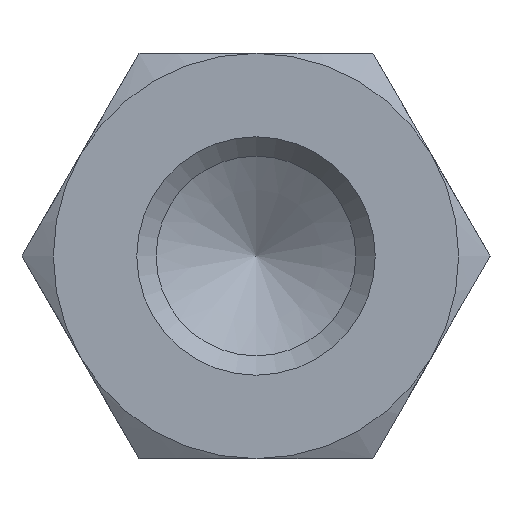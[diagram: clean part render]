
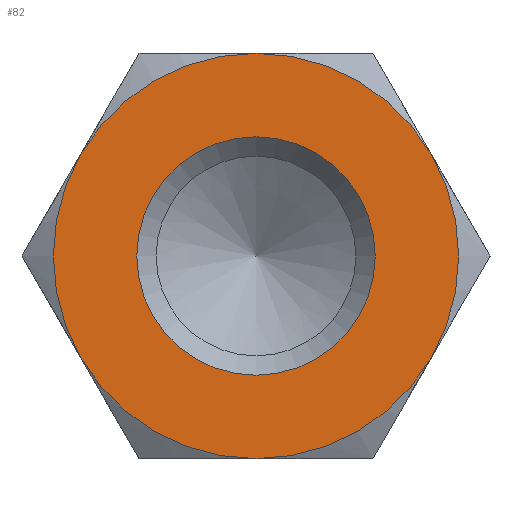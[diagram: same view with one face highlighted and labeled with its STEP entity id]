
A CAD part, left-side view. The second image highlights one B-rep face of the part: STEP entity #82.
In plain terms, the highlighted planar face has unit normal (-1, 0, 0).
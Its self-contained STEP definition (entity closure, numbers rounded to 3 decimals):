
#82 = ADVANCED_FACE( '', ( #119, #120 ), #121, .F. );
#119 = FACE_OUTER_BOUND( '', #179, .T. );
#120 = FACE_BOUND( '', #180, .T. );
#121 = PLANE( '', #181 );
#179 = EDGE_LOOP( '', ( #264, #265, #266, #267, #268, #269 ) );
#180 = EDGE_LOOP( '', ( #270 ) );
#181 = AXIS2_PLACEMENT_3D( '', #271, #272, #273 );
#264 = ORIENTED_EDGE( '', *, *, #416, .F. );
#265 = ORIENTED_EDGE( '', *, *, #417, .F. );
#266 = ORIENTED_EDGE( '', *, *, #418, .F. );
#267 = ORIENTED_EDGE( '', *, *, #409, .F. );
#268 = ORIENTED_EDGE( '', *, *, #405, .F. );
#269 = ORIENTED_EDGE( '', *, *, #406, .F. );
#270 = ORIENTED_EDGE( '', *, *, #419, .T. );
#271 = CARTESIAN_POINT( '', ( 0., 0., 0. ) );
#272 = DIRECTION( '', ( 1., 0., 0. ) );
#273 = DIRECTION( '', ( 0., 0., -1. ) );
#405 = EDGE_CURVE( '', #457, #454, #459, .T. );
#406 = EDGE_CURVE( '', #460, #457, #461, .T. );
#409 = EDGE_CURVE( '', #454, #465, #466, .T. );
#416 = EDGE_CURVE( '', #477, #460, #478, .T. );
#417 = EDGE_CURVE( '', #479, #477, #480, .T. );
#418 = EDGE_CURVE( '', #465, #479, #481, .T. );
#419 = EDGE_CURVE( '', #482, #482, #483, .T. );
#454 = VERTEX_POINT( '', #532 );
#457 = VERTEX_POINT( '', #542 );
#459 = CIRCLE( '', #549, 8.5 );
#460 = VERTEX_POINT( '', #550 );
#461 = CIRCLE( '', #551, 8.5 );
#465 = VERTEX_POINT( '', #565 );
#466 = CIRCLE( '', #566, 8.5 );
#477 = VERTEX_POINT( '', #601 );
#478 = CIRCLE( '', #602, 8.5 );
#479 = VERTEX_POINT( '', #603 );
#480 = CIRCLE( '', #604, 8.5 );
#481 = CIRCLE( '', #605, 8.5 );
#482 = VERTEX_POINT( '', #606 );
#483 = CIRCLE( '', #607, 5. );
#532 = CARTESIAN_POINT( '', ( 0., -7.361, 4.25 ) );
#542 = CARTESIAN_POINT( '', ( 0., 0., 8.5 ) );
#549 = AXIS2_PLACEMENT_3D( '', #755, #756, #757 );
#550 = CARTESIAN_POINT( '', ( 0., 7.361, 4.25 ) );
#551 = AXIS2_PLACEMENT_3D( '', #758, #759, #760 );
#565 = CARTESIAN_POINT( '', ( 0., -7.361, -4.25 ) );
#566 = AXIS2_PLACEMENT_3D( '', #761, #762, #763 );
#601 = CARTESIAN_POINT( '', ( 0., 7.361, -4.25 ) );
#602 = AXIS2_PLACEMENT_3D( '', #766, #767, #768 );
#603 = CARTESIAN_POINT( '', ( 0., 0., -8.5 ) );
#604 = AXIS2_PLACEMENT_3D( '', #769, #770, #771 );
#605 = AXIS2_PLACEMENT_3D( '', #772, #773, #774 );
#606 = CARTESIAN_POINT( '', ( 0., 0., -5. ) );
#607 = AXIS2_PLACEMENT_3D( '', #775, #776, #777 );
#755 = CARTESIAN_POINT( '', ( 0., 0., 0. ) );
#756 = DIRECTION( '', ( 1., 0., 0. ) );
#757 = DIRECTION( '', ( 0., 0., -1. ) );
#758 = CARTESIAN_POINT( '', ( 0., 0., 0. ) );
#759 = DIRECTION( '', ( 1., 0., 0. ) );
#760 = DIRECTION( '', ( 0., 0., -1. ) );
#761 = CARTESIAN_POINT( '', ( 0., 0., 0. ) );
#762 = DIRECTION( '', ( 1., 0., 0. ) );
#763 = DIRECTION( '', ( 0., 0., -1. ) );
#766 = CARTESIAN_POINT( '', ( 0., 0., 0. ) );
#767 = DIRECTION( '', ( 1., 0., 0. ) );
#768 = DIRECTION( '', ( 0., 0., -1. ) );
#769 = CARTESIAN_POINT( '', ( 0., 0., 0. ) );
#770 = DIRECTION( '', ( 1., 0., 0. ) );
#771 = DIRECTION( '', ( 0., 0., -1. ) );
#772 = CARTESIAN_POINT( '', ( 0., 0., 0. ) );
#773 = DIRECTION( '', ( 1., 0., 0. ) );
#774 = DIRECTION( '', ( 0., 0., -1. ) );
#775 = CARTESIAN_POINT( '', ( 0., 0., 0. ) );
#776 = DIRECTION( '', ( 1., 0., 0. ) );
#777 = DIRECTION( '', ( 0., 0., -1. ) );
